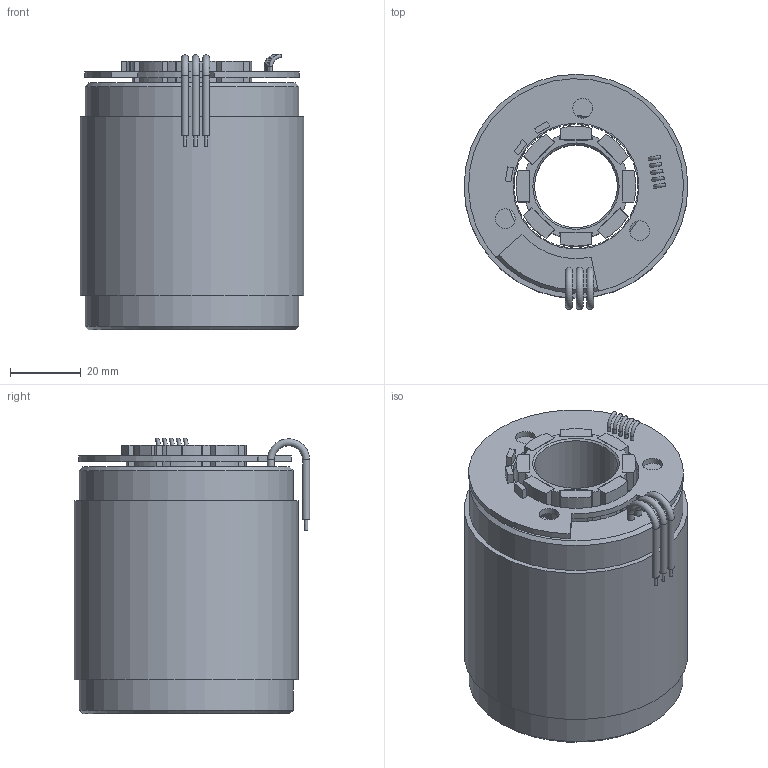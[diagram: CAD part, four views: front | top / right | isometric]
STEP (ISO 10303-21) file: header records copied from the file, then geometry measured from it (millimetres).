
FILE_DESCRIPTION((''),'2;1');
FILE_NAME('Z:\Product Library\Gearhead Library\1.Gearhead Step files\K064200-XX2.stp','2012-04-18T14:19:20',('hha4343'),(''),'Autodesk Inventor 2012','Autodesk Inventor 2012','');
FILE_SCHEMA(('AUTOMOTIVE_DESIGN { 1 0 10303 214 1 1 1 1 }'));
Length unit declared in the file: inch
Products named in the file (1): K064200-XX2_Shrinkwrap_1
Bounding box: 63.5 x 66.75 x 78.15 mm (x, y, z)
Volume: 112059 mm3; surface area: 91054.5 mm2
Topology: 3 solids, 3 shells, 682 faces, 1859 edges, 1167 vertices
Faces by surface type: plane 453, cylinder 215, torus 8, cone 6
Full cylindrical faces by diameter (mm): 0.946 x3, 1 x5, 2 x6, 5.657 x3, 23.495 x1, 35.739 x1, 38.1 x2, 60.7 x2, 63.5 x1
Entity records: 21706 total; most frequent: DIRECTION 3729, CARTESIAN_POINT 3655, ORIENTED_EDGE 3626, EDGE_CURVE 1813, VECTOR 1263, LINE 1263, AXIS2_PLACEMENT_3D 1233, VERTEX_POINT 1159
